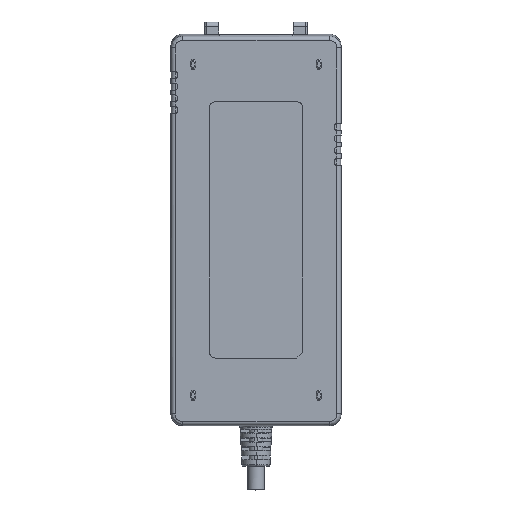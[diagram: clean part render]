
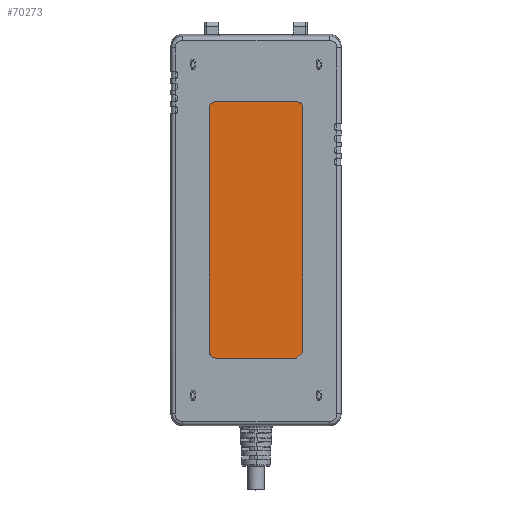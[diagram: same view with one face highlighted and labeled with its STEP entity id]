
A CAD part, top view. The second image highlights one B-rep face of the part: STEP entity #70273.
In plain terms, the highlighted free-form (B-spline) face has degree [1, 1] with [2, 2] control points.
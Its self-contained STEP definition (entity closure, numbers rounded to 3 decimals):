
#3997 = CARTESIAN_POINT ( 'NONE',  ( -20., -37.965, 17.146 ) ) ;
#5015 = CARTESIAN_POINT ( 'NONE',  ( -20., 69.964, 17.146 ) ) ;
#6447 = CARTESIAN_POINT ( 'NONE',  ( 20., -36.5, 17.146 ) ) ;
#7403 = CARTESIAN_POINT ( 'NONE',  ( 20., 68.5, 17.146 ) ) ;
#8169 = CARTESIAN_POINT ( 'NONE',  ( -20., 68.5, 17.146 ) ) ;
#8403 = ORIENTED_EDGE ( 'NONE', *, *, #100454, .T. ) ;
#10120 = EDGE_CURVE ( 'NONE', #70620, #20704, #57132, .T. ) ;
#14365 = ORIENTED_EDGE ( 'NONE', *, *, #87241, .T. ) ;
#16242 = CARTESIAN_POINT ( 'NONE',  ( 20., 68.5, 17.146 ) ) ;
#17364 = CARTESIAN_POINT ( 'NONE',  ( -20., -36.5, 17.146 ) ) ;
#19207 = B_SPLINE_CURVE_WITH_KNOTS ( 'NONE', 1,
 ( #98215, #96623 ),
 .UNSPECIFIED., .F., .F.,
 ( 2, 2 ),
 ( 0., 1. ),
 .UNSPECIFIED. ) ;
#20704 = VERTEX_POINT ( 'NONE', #17364 ) ;
#22292 = ORIENTED_EDGE ( 'NONE', *, *, #10120, .F. ) ;
#31176 = CARTESIAN_POINT ( 'NONE',  ( 17.5, 71., 17.146 ) ) ;
#31481 = CARTESIAN_POINT ( 'NONE',  ( 20., -39., 17.146 ) ) ;
#37033 = VERTEX_POINT ( 'NONE', #31176 ) ;
#37332 = CARTESIAN_POINT ( 'NONE',  ( -17.5, 71., 17.146 ) ) ;
#39182 = CARTESIAN_POINT ( 'NONE',  ( 20., 71., 17.146 ) ) ;
#40501 = CARTESIAN_POINT ( 'NONE',  ( 17.5, 71., 17.146 ) ) ;
#41574 = CARTESIAN_POINT ( 'NONE',  ( -20., -36.5, 17.146 ) ) ;
#45349 = ORIENTED_EDGE ( 'NONE', *, *, #60641, .F. ) ;
#45621 = CARTESIAN_POINT ( 'NONE',  ( -20., -36.5, 17.146 ) ) ;
#48560 = B_SPLINE_CURVE_WITH_KNOTS ( 'NONE', 1,
 ( #63231, #62693 ),
 .UNSPECIFIED., .F., .F.,
 ( 2, 2 ),
 ( 0., 1. ),
 .UNSPECIFIED. ) ;
#52711 = VERTEX_POINT ( 'NONE', #92254 ) ;
#52958 = CARTESIAN_POINT ( 'NONE',  ( -17.5, 71., 17.146 ) ) ;
#54384 = CARTESIAN_POINT ( 'NONE',  ( 20., -36.5, 17.146 ) ) ;
#56195 = CARTESIAN_POINT ( 'NONE',  ( -20., -39., 17.146 ) ) ;
#56616 = CARTESIAN_POINT ( 'NONE',  ( 17.5, -39., 17.146 ) ) ;
#57132 =( BOUNDED_CURVE ( )  B_SPLINE_CURVE ( 3, ( #59909, #86211, #3997, #45621 ),
 .UNSPECIFIED., .F., .F. ) 
 B_SPLINE_CURVE_WITH_KNOTS ( ( 4, 4 ),
 ( -4.712, -3.142 ),
 .UNSPECIFIED. ) 
 CURVE ( )  GEOMETRIC_REPRESENTATION_ITEM ( )  RATIONAL_B_SPLINE_CURVE ( ( 1., 0.805, 0.805, 1. ) ) 
 REPRESENTATION_ITEM ( '' )  );
#57641 = EDGE_LOOP ( 'NONE', ( #83148, #45349, #14365, #62604, #66041, #91988, #8403, #22292 ) ) ;
#59673 = CARTESIAN_POINT ( 'NONE',  ( 18.965, 71., 17.146 ) ) ;
#59909 = CARTESIAN_POINT ( 'NONE',  ( -17.5, -39., 17.146 ) ) ;
#60641 = EDGE_CURVE ( 'NONE', #68113, #71517, #80261, .T. ) ;
#62604 = ORIENTED_EDGE ( 'NONE', *, *, #100414, .F. ) ;
#62693 = CARTESIAN_POINT ( 'NONE',  ( -17.5, 71., 17.146 ) ) ;
#63231 = CARTESIAN_POINT ( 'NONE',  ( 17.5, 71., 17.146 ) ) ;
#64611 = B_SPLINE_CURVE_WITH_KNOTS ( 'NONE', 1,
 ( #8169, #41574 ),
 .UNSPECIFIED., .F., .F.,
 ( 2, 2 ),
 ( 0., 1. ),
 .UNSPECIFIED. ) ;
#65361 = CARTESIAN_POINT ( 'NONE',  ( -17.5, -39., 17.146 ) ) ;
#66041 = ORIENTED_EDGE ( 'NONE', *, *, #75372, .T. ) ;
#68113 = VERTEX_POINT ( 'NONE', #93025 ) ;
#70273 = ADVANCED_FACE ( 'NONE', ( #71019 ), #79720, .T. ) ;
#70620 = VERTEX_POINT ( 'NONE', #65361 ) ;
#70937 = EDGE_CURVE ( 'NONE', #52711, #75906, #81750, .T. ) ;
#71019 = FACE_OUTER_BOUND ( 'NONE', #57641, .T. ) ;
#71517 = VERTEX_POINT ( 'NONE', #56616 ) ;
#73913 = CARTESIAN_POINT ( 'NONE',  ( 20., 69.964, 17.146 ) ) ;
#75372 = EDGE_CURVE ( 'NONE', #37033, #75906, #48560, .T. ) ;
#75906 = VERTEX_POINT ( 'NONE', #52958 ) ;
#76216 = B_SPLINE_CURVE_WITH_KNOTS ( 'NONE', 1,
 ( #6447, #16242 ),
 .UNSPECIFIED., .F., .F.,
 ( 2, 2 ),
 ( 0., 1. ),
 .UNSPECIFIED. ) ;
#79720 = B_SPLINE_SURFACE_WITH_KNOTS ( 'NONE', 1, 1, ( 
 ( #56195, #80848 ),
 ( #31481, #39182 ) ),
 .UNSPECIFIED., .F., .F., .F.,
 ( 2, 2 ),
 ( 2, 2 ),
 ( 0., 1. ),
 ( 0., 1. ),
 .UNSPECIFIED. ) ;
#80261 = B_SPLINE_CURVE_WITH_KNOTS ( 'NONE', 1,
 ( #54384, #87803 ),
 .UNSPECIFIED., .F., .F.,
 ( 2, 2 ),
 ( 0., 1. ),
 .UNSPECIFIED. ) ;
#80848 = CARTESIAN_POINT ( 'NONE',  ( -20., 71., 17.146 ) ) ;
#81750 =( BOUNDED_CURVE ( )  B_SPLINE_CURVE ( 3, ( #87760, #5015, #96991, #37332 ),
 .UNSPECIFIED., .F., .F. ) 
 B_SPLINE_CURVE_WITH_KNOTS ( ( 4, 4 ),
 ( -3.142, -1.571 ),
 .UNSPECIFIED. ) 
 CURVE ( )  GEOMETRIC_REPRESENTATION_ITEM ( )  RATIONAL_B_SPLINE_CURVE ( ( 1., 0.805, 0.805, 1. ) ) 
 REPRESENTATION_ITEM ( '' )  );
#83033 = VERTEX_POINT ( 'NONE', #7403 ) ;
#83148 = ORIENTED_EDGE ( 'NONE', *, *, #95629, .T. ) ;
#86211 = CARTESIAN_POINT ( 'NONE',  ( -18.964, -39., 17.146 ) ) ;
#87241 = EDGE_CURVE ( 'NONE', #68113, #83033, #76216, .T. ) ;
#87760 = CARTESIAN_POINT ( 'NONE',  ( -20., 68.5, 17.146 ) ) ;
#87803 = CARTESIAN_POINT ( 'NONE',  ( 17.5, -39., 17.146 ) ) ;
#91988 = ORIENTED_EDGE ( 'NONE', *, *, #70937, .F. ) ;
#92254 = CARTESIAN_POINT ( 'NONE',  ( -20., 68.5, 17.146 ) ) ;
#93025 = CARTESIAN_POINT ( 'NONE',  ( 20., -36.5, 17.146 ) ) ;
#94073 =( BOUNDED_CURVE ( )  B_SPLINE_CURVE ( 3, ( #40501, #59673, #73913, #107278 ),
 .UNSPECIFIED., .F., .F. ) 
 B_SPLINE_CURVE_WITH_KNOTS ( ( 4, 4 ),
 ( -1.571, 0. ),
 .UNSPECIFIED. ) 
 CURVE ( )  GEOMETRIC_REPRESENTATION_ITEM ( )  RATIONAL_B_SPLINE_CURVE ( ( 1., 0.805, 0.805, 1. ) ) 
 REPRESENTATION_ITEM ( '' )  );
#95629 = EDGE_CURVE ( 'NONE', #70620, #71517, #19207, .T. ) ;
#96623 = CARTESIAN_POINT ( 'NONE',  ( 17.5, -39., 17.146 ) ) ;
#96991 = CARTESIAN_POINT ( 'NONE',  ( -18.964, 71., 17.146 ) ) ;
#98215 = CARTESIAN_POINT ( 'NONE',  ( -17.5, -39., 17.146 ) ) ;
#100414 = EDGE_CURVE ( 'NONE', #37033, #83033, #94073, .T. ) ;
#100454 = EDGE_CURVE ( 'NONE', #52711, #20704, #64611, .T. ) ;
#107278 = CARTESIAN_POINT ( 'NONE',  ( 20., 68.5, 17.146 ) ) ;
